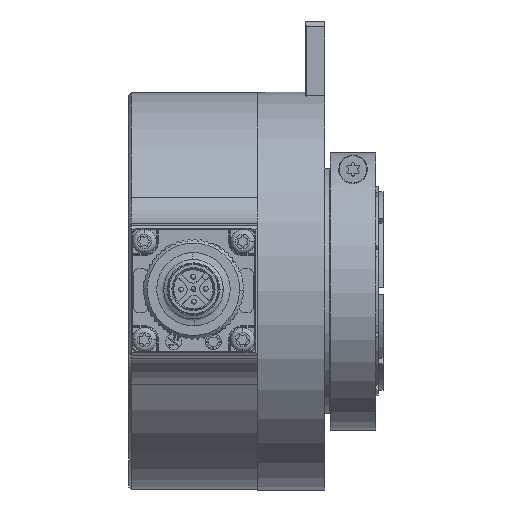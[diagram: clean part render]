
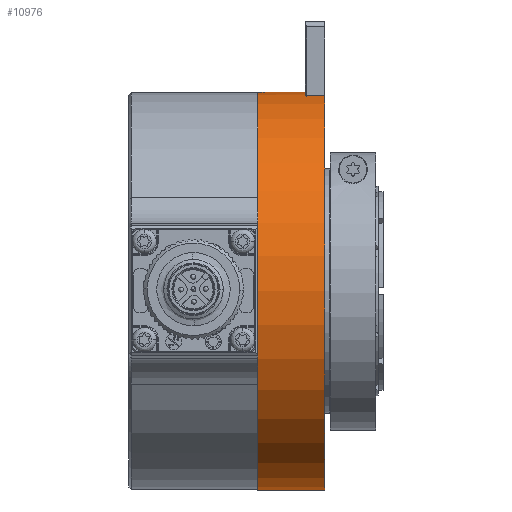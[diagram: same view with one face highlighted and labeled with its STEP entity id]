
A CAD part, top view. The second image highlights one B-rep face of the part: STEP entity #10976.
In plain terms, the highlighted cylindrical face has radius 40.075 mm (diameter 80.15 mm), a partial arc.
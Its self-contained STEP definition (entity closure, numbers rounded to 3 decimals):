
#600 = EDGE_CURVE ( 'NONE', #33367, #16179, #44664, .T. ) ;
#868 = DIRECTION ( 'NONE',  ( -1., 0., 0. ) ) ;
#1749 = CARTESIAN_POINT ( 'NONE',  ( 9.5, 0., 0. ) ) ;
#1899 = CYLINDRICAL_SURFACE ( 'NONE', #23841, 40.075 ) ;
#3425 = CIRCLE ( 'NONE', #27780, 40.075 ) ;
#3687 = ORIENTED_EDGE ( 'NONE', *, *, #50005, .F. ) ;
#3791 = AXIS2_PLACEMENT_3D ( 'NONE', #1749, #10166, #51809 ) ;
#5227 = DIRECTION ( 'NONE',  ( -1., 0., 0. ) ) ;
#6500 = CARTESIAN_POINT ( 'NONE',  ( -12.775, 0., 0. ) ) ;
#10052 = FACE_OUTER_BOUND ( 'NONE', #24477, .T. ) ;
#10166 = DIRECTION ( 'NONE',  ( -1., 0., 0. ) ) ;
#10976 = ADVANCED_FACE ( 'NONE', ( #10052 ), #1899, .T. ) ;
#12743 = ORIENTED_EDGE ( 'NONE', *, *, #30289, .T. ) ;
#12919 = ORIENTED_EDGE ( 'NONE', *, *, #23640, .T. ) ;
#14684 = DIRECTION ( 'NONE',  ( 0., 1., 0. ) ) ;
#16179 = VERTEX_POINT ( 'NONE', #18929 ) ;
#16672 = LINE ( 'NONE', #41728, #26728 ) ;
#17762 = CARTESIAN_POINT ( 'NONE',  ( 0., 0., 0. ) ) ;
#18020 = CARTESIAN_POINT ( 'NONE',  ( -12.775, -40.075, 0. ) ) ;
#18296 = DIRECTION ( 'NONE',  ( -1., 0., 0. ) ) ;
#18929 = CARTESIAN_POINT ( 'NONE',  ( 9.5, 40.075, 0. ) ) ;
#19215 = CARTESIAN_POINT ( 'NONE',  ( 0., -40.075, 0. ) ) ;
#20525 = DIRECTION ( 'NONE',  ( -1., 0., 0. ) ) ;
#23062 = EDGE_CURVE ( 'NONE', #42526, #28627, #32981, .T. ) ;
#23640 = EDGE_CURVE ( 'NONE', #25450, #24060, #3425, .T. ) ;
#23841 = AXIS2_PLACEMENT_3D ( 'NONE', #6500, #30748, #14684 ) ;
#23868 = CARTESIAN_POINT ( 'NONE',  ( 13.5, 39.468, 6.95 ) ) ;
#24060 = VERTEX_POINT ( 'NONE', #23868 ) ;
#24477 = EDGE_LOOP ( 'NONE', ( #3687, #12919, #42749, #52031, #12743, #40856 ) ) ;
#25450 = VERTEX_POINT ( 'NONE', #32035 ) ;
#25895 = LINE ( 'NONE', #42753, #53441 ) ;
#26728 = VECTOR ( 'NONE', #20525, 1000. ) ;
#26931 = DIRECTION ( 'NONE',  ( -1., 0., 0. ) ) ;
#27780 = AXIS2_PLACEMENT_3D ( 'NONE', #51955, #26931, #47332 ) ;
#28602 = AXIS2_PLACEMENT_3D ( 'NONE', #17762, #5227, #41994 ) ;
#28627 = VERTEX_POINT ( 'NONE', #49361 ) ;
#30289 = EDGE_CURVE ( 'NONE', #16179, #28627, #25895, .T. ) ;
#30748 = DIRECTION ( 'NONE',  ( -1., 0., 0. ) ) ;
#31102 = LINE ( 'NONE', #18020, #41053 ) ;
#31802 = CARTESIAN_POINT ( 'NONE',  ( 9.5, 39.468, 6.95 ) ) ;
#32035 = CARTESIAN_POINT ( 'NONE',  ( 13.5, -40.075, 0. ) ) ;
#32981 = CIRCLE ( 'NONE', #28602, 40.075 ) ;
#33367 = VERTEX_POINT ( 'NONE', #31802 ) ;
#40856 = ORIENTED_EDGE ( 'NONE', *, *, #23062, .F. ) ;
#41053 = VECTOR ( 'NONE', #18296, 1000. ) ;
#41728 = CARTESIAN_POINT ( 'NONE',  ( -12.775, 39.468, 6.95 ) ) ;
#41994 = DIRECTION ( 'NONE',  ( 0., 1., 0. ) ) ;
#42526 = VERTEX_POINT ( 'NONE', #19215 ) ;
#42749 = ORIENTED_EDGE ( 'NONE', *, *, #43599, .T. ) ;
#42753 = CARTESIAN_POINT ( 'NONE',  ( -12.775, 40.075, 0. ) ) ;
#43599 = EDGE_CURVE ( 'NONE', #24060, #33367, #16672, .T. ) ;
#44664 = CIRCLE ( 'NONE', #3791, 40.075 ) ;
#47332 = DIRECTION ( 'NONE',  ( 0., 1., 0. ) ) ;
#49361 = CARTESIAN_POINT ( 'NONE',  ( 0., 40.075, 0. ) ) ;
#50005 = EDGE_CURVE ( 'NONE', #25450, #42526, #31102, .T. ) ;
#51809 = DIRECTION ( 'NONE',  ( 0., 1., 0. ) ) ;
#51955 = CARTESIAN_POINT ( 'NONE',  ( 13.5, 0., 0. ) ) ;
#52031 = ORIENTED_EDGE ( 'NONE', *, *, #600, .T. ) ;
#53441 = VECTOR ( 'NONE', #868, 1000. ) ;
